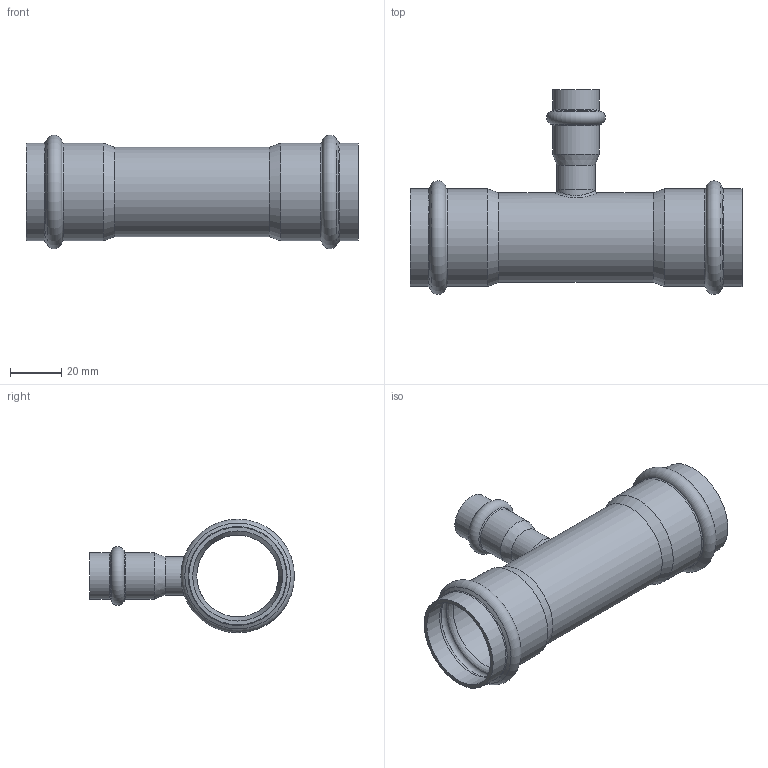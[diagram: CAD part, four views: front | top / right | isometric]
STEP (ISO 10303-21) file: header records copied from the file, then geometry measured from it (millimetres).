
FILE_DESCRIPTION((''),'2;1');
FILE_NAME('G:\Technics\CAD\Bauteile\035\69130351535(1).stp','2008-02-29T11:35:08',('herberg'),(''),'Autodesk Inventor 2008','Autodesk Inventor 2008','');
FILE_SCHEMA(('AUTOMOTIVE_DESIGN { 1 0 10303 214 1 1 1 1 }'));
Length unit declared in the file: millimetre
Products named in the file (3): 69130351535(1); LM_69130351535(1); 6924315HM
Assembly tree (2 placements, depth 2):
  69130351535(1)
    LM_69130351535(1)
    6924315HM
Bounding box: 130 x 80.25 x 44.49 mm (x, y, z)
Volume: 26104.6 mm3; surface area: 35351.3 mm2
Topology: 2 solids, 2 shells, 55 faces, 115 edges, 64 vertices
Faces by surface type: cylinder 18, bspline 13, cone 12, torus 7, plane 5
Full cylindrical faces by diameter (mm): 12 x2, 15 x2, 15.15 x2, 18.15 x2, 32 x1, 35 x1, 35.25 x4, 38.25 x4
Entity records: 2728 total; most frequent: CARTESIAN_POINT 1747, DIRECTION 200, ORIENTED_EDGE 116, EDGE_LOOP 110, AXIS2_PLACEMENT_3D 100, EDGE_CURVE 58, VERTEX_POINT 56, FACE_OUTER_BOUND 55
